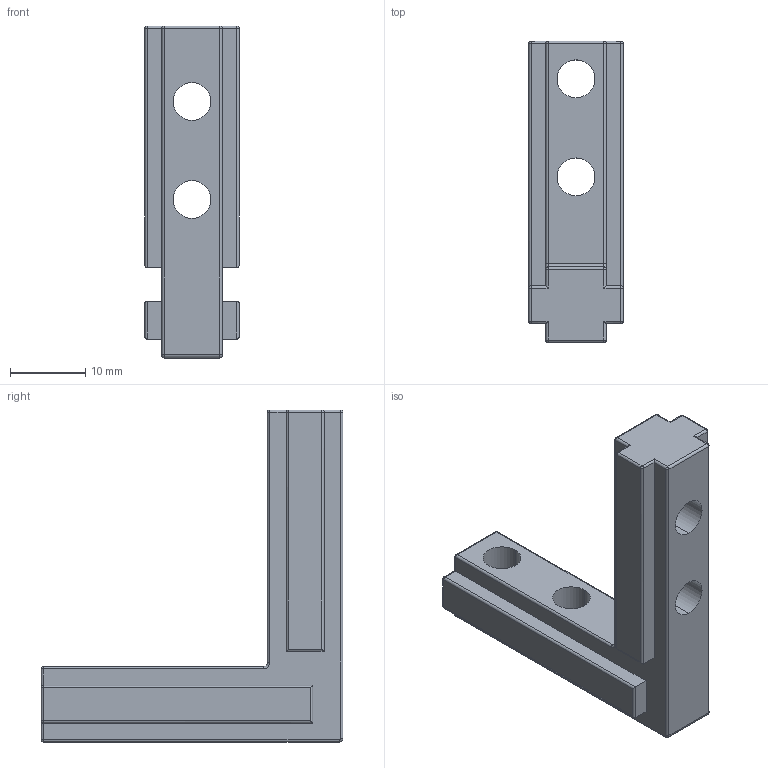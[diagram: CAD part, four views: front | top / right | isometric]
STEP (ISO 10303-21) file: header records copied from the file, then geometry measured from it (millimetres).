
FILE_DESCRIPTION (( 'STEP AP214' ), '1' );
FILE_NAME ('2012.STEP', '2017-08-09T05:50:45', ( '' ), ( '' ), 'SwSTEP 2.0', 'SolidWorks 2014', '' );
FILE_SCHEMA (( 'AUTOMOTIVE_DESIGN' ));
Length unit declared in the file: millimetre
Products named in the file (2): 2012
Bounding box: 12.5 x 40 x 44 mm (x, y, z)
Volume: 6651.6 mm3; surface area: 3906.4 mm2
Topology: 1 solids, 1 shells, 98 faces, 232 edges, 120 vertices
Faces by surface type: cylinder 54, plane 24, sphere 16, torus 4
Entity records: 2777 total; most frequent: CARTESIAN_POINT 484, DIRECTION 480, ORIENTED_EDGE 432, EDGE_CURVE 216, AXIS2_PLACEMENT_3D 180, VECTOR 120, LINE 120, VERTEX_POINT 120
